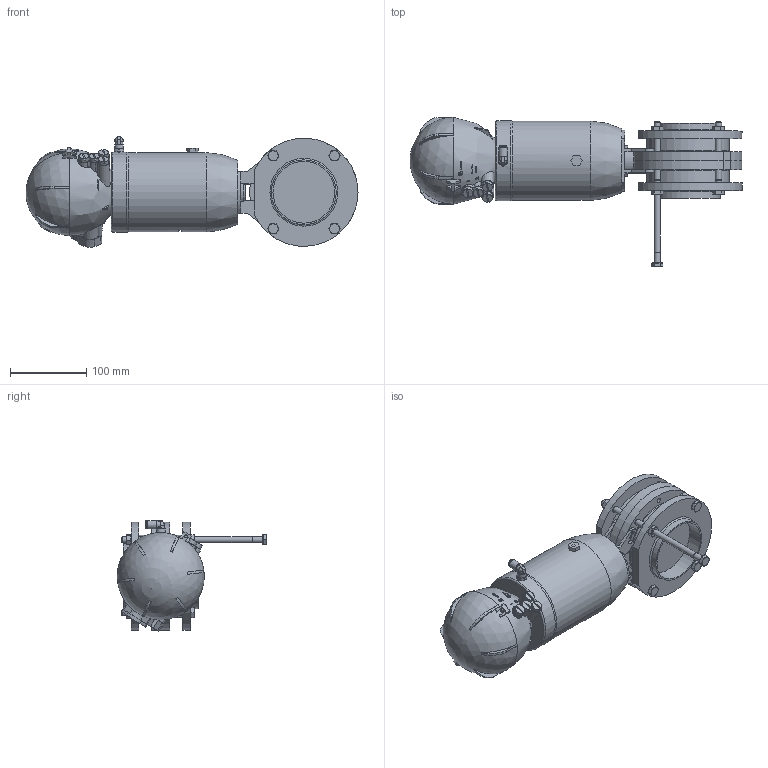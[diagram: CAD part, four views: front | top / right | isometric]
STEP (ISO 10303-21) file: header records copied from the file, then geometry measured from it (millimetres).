
FILE_DESCRIPTION(/* description */ ('ZVF V.FARF.DN80(85X2) WAF4 MACH98 SENC 316 EPDM'),/* implementation_level */ '2;1');
FILE_NAME(/* name */ 'C:\_DED_PWS\PINI-A\DB\B\EAA\BEAAC6080BEBF-00^SAGOMA.step',/* time_stamp */ '2025-09-16T15:26:53+02:00',/* author */ (''),/* organization */ (''),/* preprocessor_version */ 'ST-DEVELOPER v20',/* originating_system */ 'Autodesk Inventor 2022',/* authorisation */ '');
FILE_SCHEMA (('CONFIG_CONTROL_DESIGN'));
Length unit declared in the file: millimetre
Products named in the file (8): BEAAC6080BEBF; 3DAAZVFAA054; Supporto-farf-DN80-100-; 3DAAJGIOAA007; TPM020080BBA; RBIAA.M08; RBAAA08X90; TWD030080BBA
Assembly tree (16 placements, depth 2):
  BEAAC6080BEBF
    3DAAZVFAA054
    Supporto-farf-DN80-100-
    3DAAJGIOAA007
    TPM020080BBA  x2
    RBIAA.M08  x4
    RBAAA08X90  x5
    TWD030080BBA  x2
Bounding box: 435.46 x 196 x 145.49 mm (x, y, z)
Volume: 3159298.2 mm3; surface area: 325252.7 mm2
Topology: 17 solids, 17 shells, 1252 faces, 3256 edges, 2109 vertices
Faces by surface type: plane 857, cylinder 169, cone 153, bspline 56, torus 16, sphere 1
Full cylindrical faces by diameter (mm): 3 x2, 4 x1, 4.917 x12, 5 x1, 6 x2, 6.2 x16, 7 x5, 8 x15, 8.2 x12, 8.3 x1, 8.566 x3, 9.728 x1, 10 x1, 10.106 x1, 11 x1, 11.5 x1, 13 x9, 14.918 x1, 18 x1, 26 x1, 30 x2, 30.3 x1, 32 x1, 81 x2, 85 x2, 97.8 x1, 98 x1, 104 x1, 105 x1, 108 x2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
Entity records: 36463 total; most frequent: CARTESIAN_POINT 8644, DIRECTION 5848, ORIENTED_EDGE 5568, EDGE_CURVE 2784, AXIS2_PLACEMENT_3D 2368, VERTEX_POINT 1839, EDGE_LOOP 1171, LINE 1112
